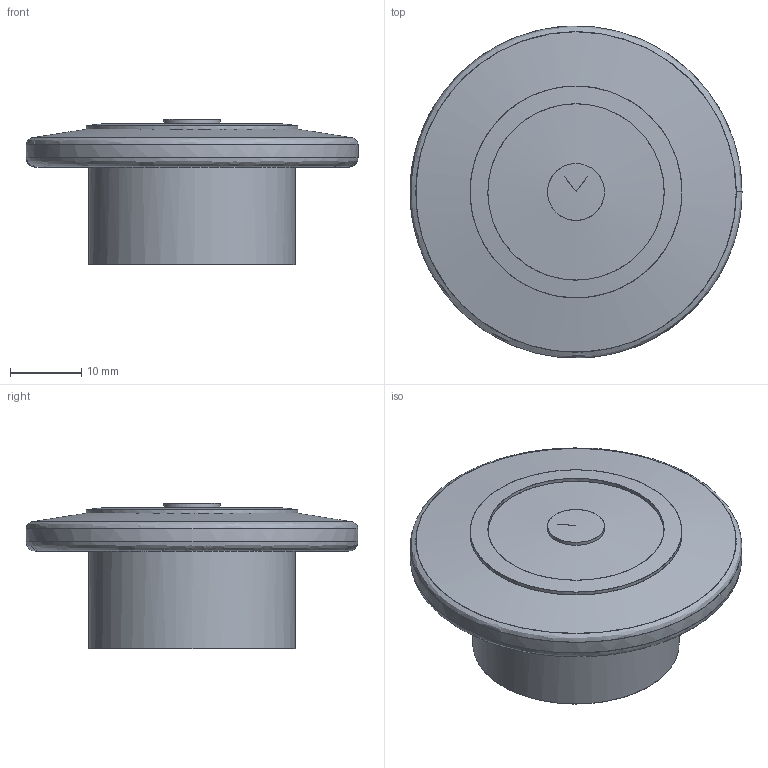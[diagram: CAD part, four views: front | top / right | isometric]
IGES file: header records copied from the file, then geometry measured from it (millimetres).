
Start section: C
Global section: file name: 0440-47.igs; native system: By Siemens PLM Incorporated; preprocessor: XPlus GENERIC/IGES 16.0.42; author: Author; organization: Title; date: 20231211.123217; units: millimetre
Bounding box: 46.7 x 46.65 x 20.5 mm (x, y, z)
Surface area: 7572.7 mm2 (no closed solid volume)
Topology: 0 solids, 0 shells, 28 faces, 182 edges, 180 vertices
Faces by surface type: bspline 28
